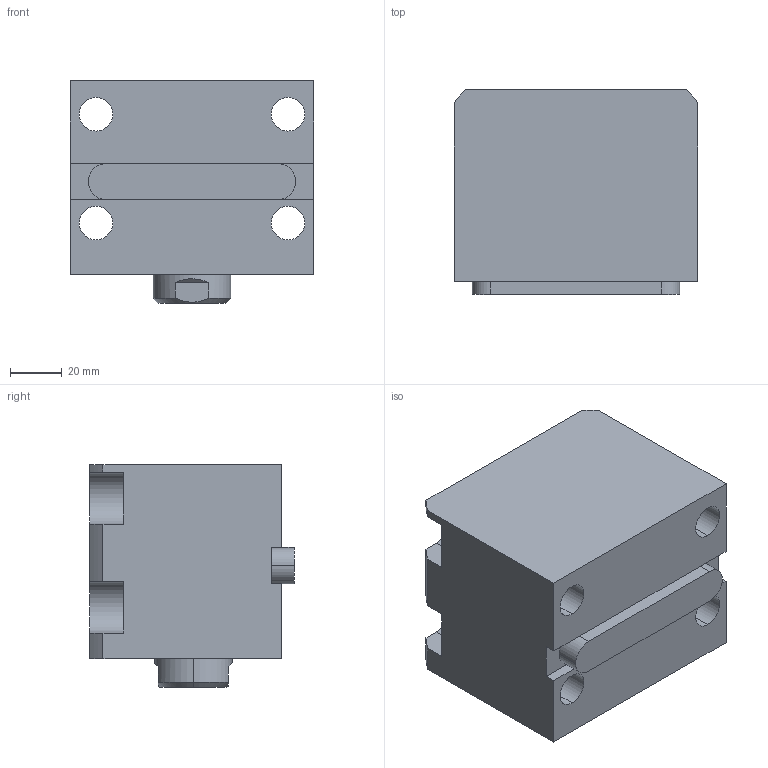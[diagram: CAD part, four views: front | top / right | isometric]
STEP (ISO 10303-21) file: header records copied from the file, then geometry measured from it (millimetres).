
FILE_DESCRIPTION (( 'STEP AP203' ), '1' );
FILE_NAME ('CHTB-LA50-15N.STEP', '2018-05-18T00:18:11', ( '' ), ( '' ), 'SwSTEP 2.0', 'SolidWorks 2015', '' );
FILE_SCHEMA (( 'CONFIG_CONTROL_DESIGN' ));
Length unit declared in the file: millimetre
Products named in the file (4): CHTM-SDMA50QG; CHTB-LA50-15N; 活塞杆LA50-15N; 掛极LA50-15N
Assembly tree (3 placements, depth 2):
  CHTB-LA50-15N
    掛极LA50-15N
    CHTM-SDMA50QG
    活塞杆LA50-15N
Bounding box: 94 x 79 x 86 mm (x, y, z)
Volume: 447617.7 mm3; surface area: 92334.4 mm2
Topology: 3 solids, 3 shells, 202 faces, 542 edges, 358 vertices
Faces by surface type: cylinder 96, plane 53, cone 23, torus 16, bspline 14
Entity records: 11255 total; most frequent: CARTESIAN_POINT 5992, ORIENTED_EDGE 1072, DIRECTION 958, EDGE_CURVE 536, AXIS2_PLACEMENT_3D 377, VERTEX_POINT 358, EDGE_LOOP 234, VECTOR 204
